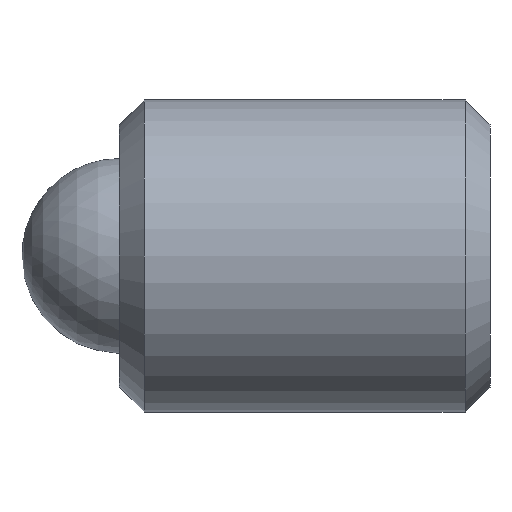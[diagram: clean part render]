
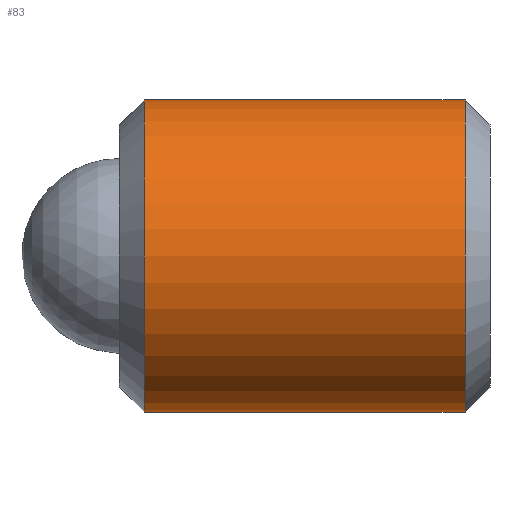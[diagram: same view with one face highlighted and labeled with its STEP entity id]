
A CAD part, front view. The second image highlights one B-rep face of the part: STEP entity #83.
In plain terms, the highlighted cylindrical face has radius 3.175 mm (diameter 6.35 mm), a partial arc.
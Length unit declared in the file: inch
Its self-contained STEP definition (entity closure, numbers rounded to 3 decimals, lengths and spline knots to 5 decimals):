
#28 = CARTESIAN_POINT ( 'NONE',  ( 0.29688, 0., 0. ) ) ;
#29 = CARTESIAN_POINT ( 'NONE',  ( 0.02, 0., 0.125 ) ) ;
#43 = CARTESIAN_POINT ( 'NONE',  ( 0.02, 0., -0.125 ) ) ;
#50 = DIRECTION ( 'NONE',  ( -1., 0., 0. ) ) ;
#69 = FACE_OUTER_BOUND ( 'NONE', #499, .T. ) ;
#83 = ADVANCED_FACE ( 'NONE', ( #69 ), #207, .T. ) ;
#85 = CARTESIAN_POINT ( 'NONE',  ( 0.02, 0., 0. ) ) ;
#119 = CARTESIAN_POINT ( 'NONE',  ( 0.29688, 0., -0.125 ) ) ;
#126 = AXIS2_PLACEMENT_3D ( 'NONE', #85, #336, #254 ) ;
#140 = EDGE_CURVE ( 'NONE', #539, #183, #308, .T. ) ;
#154 = AXIS2_PLACEMENT_3D ( 'NONE', #236, #235, #581 ) ;
#172 = DIRECTION ( 'NONE',  ( -1., 0., 0. ) ) ;
#183 = VERTEX_POINT ( 'NONE', #43 ) ;
#207 = CYLINDRICAL_SURFACE ( 'NONE', #460, 0.125 ) ;
#235 = DIRECTION ( 'NONE',  ( -1., 0., 0. ) ) ;
#236 = CARTESIAN_POINT ( 'NONE',  ( 0.27688, 0., 0. ) ) ;
#254 = DIRECTION ( 'NONE',  ( 0., 0., -1. ) ) ;
#257 = ORIENTED_EDGE ( 'NONE', *, *, #140, .F. ) ;
#278 = ORIENTED_EDGE ( 'NONE', *, *, #589, .T. ) ;
#308 = LINE ( 'NONE', #119, #627 ) ;
#320 = DIRECTION ( 'NONE',  ( -1., 0., 0. ) ) ;
#333 = LINE ( 'NONE', #507, #590 ) ;
#336 = DIRECTION ( 'NONE',  ( 1., 0., 0. ) ) ;
#350 = CARTESIAN_POINT ( 'NONE',  ( 0.27688, 0., 0.125 ) ) ;
#363 = ORIENTED_EDGE ( 'NONE', *, *, #584, .T. ) ;
#372 = ORIENTED_EDGE ( 'NONE', *, *, #428, .T. ) ;
#394 = CIRCLE ( 'NONE', #154, 0.125 ) ;
#405 = DIRECTION ( 'NONE',  ( 0., 0., 1. ) ) ;
#428 = EDGE_CURVE ( 'NONE', #539, #600, #394, .T. ) ;
#460 = AXIS2_PLACEMENT_3D ( 'NONE', #28, #50, #405 ) ;
#499 = EDGE_LOOP ( 'NONE', ( #257, #372, #363, #278 ) ) ;
#507 = CARTESIAN_POINT ( 'NONE',  ( 0.29688, 0., 0.125 ) ) ;
#539 = VERTEX_POINT ( 'NONE', #561 ) ;
#561 = CARTESIAN_POINT ( 'NONE',  ( 0.27688, 0., -0.125 ) ) ;
#581 = DIRECTION ( 'NONE',  ( 0., 0., -1. ) ) ;
#584 = EDGE_CURVE ( 'NONE', #600, #626, #333, .T. ) ;
#589 = EDGE_CURVE ( 'NONE', #626, #183, #607, .T. ) ;
#590 = VECTOR ( 'NONE', #320, 39.37008 ) ;
#600 = VERTEX_POINT ( 'NONE', #350 ) ;
#607 = CIRCLE ( 'NONE', #126, 0.125 ) ;
#626 = VERTEX_POINT ( 'NONE', #29 ) ;
#627 = VECTOR ( 'NONE', #172, 39.37008 ) ;
